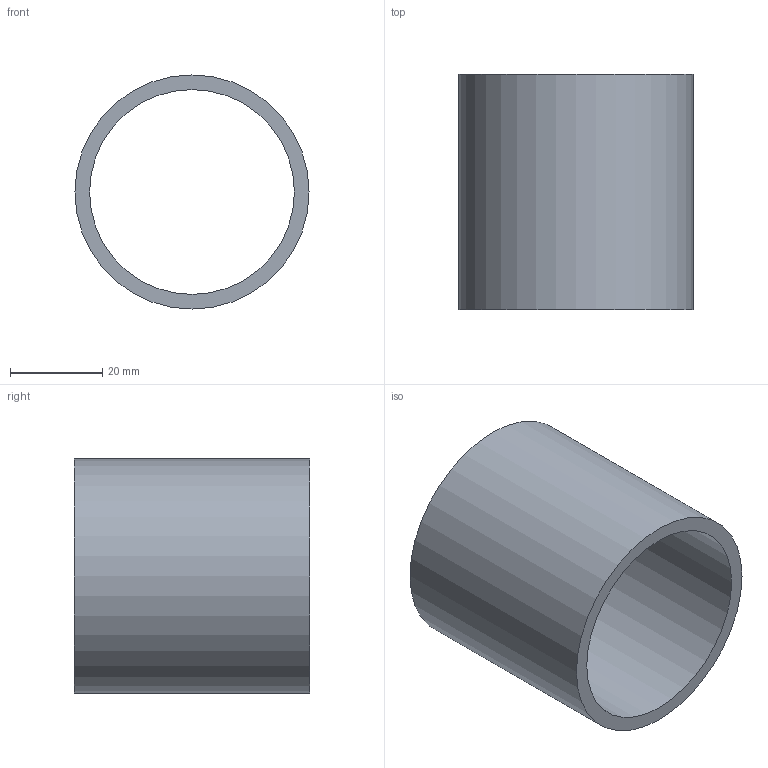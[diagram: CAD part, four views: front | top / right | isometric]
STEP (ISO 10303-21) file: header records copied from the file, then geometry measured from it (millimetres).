
FILE_DESCRIPTION(/* description */ (''),/* implementation_level */ '2;1');
FILE_NAME(/* name */ '6061-RND-200-125-METRIC.step',/* time_stamp */ '2025-08-05T15:20:58-07:00',/* author */ (''),/* organization */ (''),/* preprocessor_version */ 'ST-DEVELOPER v20.1',/* originating_system */ 'Autodesk Translation Framework v14.10.0.0',/* authorisation */ '');
FILE_SCHEMA (('AUTOMOTIVE_DESIGN { 1 0 10303 214 3 1 1 }'));
Length unit declared in the file: inch
Products named in the file (1): (Unsaved)
Bounding box: 50.8 x 51.05 x 50.8 mm (x, y, z)
Volume: 24252.6 mm3; surface area: 16227.3 mm2
Topology: 1 solids, 1 shells, 4 faces, 6 edges, 4 vertices
Faces by surface type: cylinder 2, plane 2
Full cylindrical faces by diameter (mm): 44.45 x1, 50.8 x1
Entity records: 133 total; most frequent: DIRECTION 20, CARTESIAN_POINT 15, ORIENTED_EDGE 12, AXIS2_PLACEMENT_3D 9, EDGE_LOOP 6, EDGE_CURVE 6, FACE_OUTER_BOUND 4, CIRCLE 4
